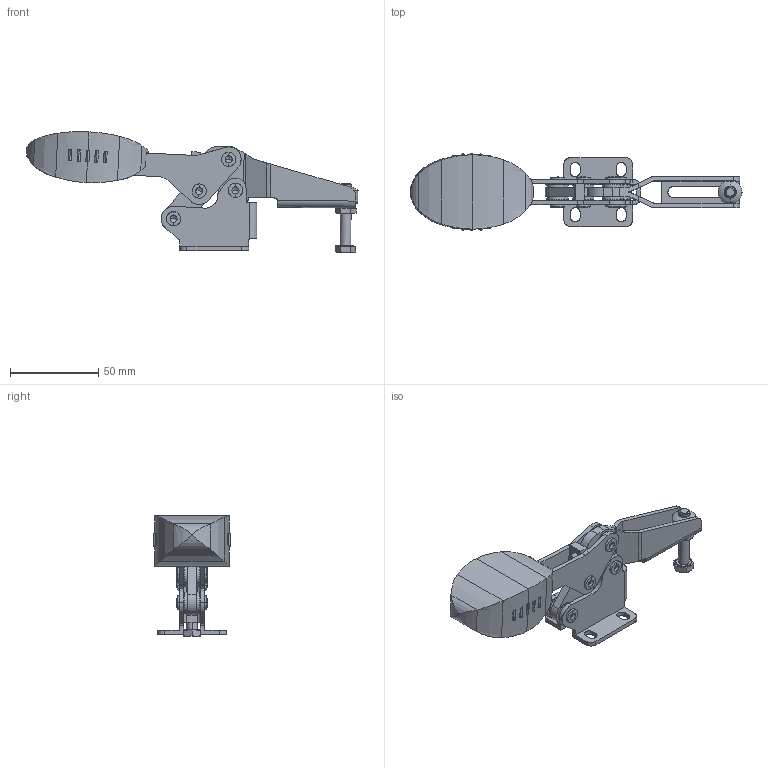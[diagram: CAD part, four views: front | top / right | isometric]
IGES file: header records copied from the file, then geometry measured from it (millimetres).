
Start section: SolidWorks IGES file using analytic representation for surfaces
Global section: file name: X:\11_SW2020-Inv2020\00_全2021-11新製品まで\t\TCDHF06160\tcdhf06160.IGS; native system: SolidWorks 2020; preprocessor: SolidWorks 2020; author: ImaoCorp; date: 211026.152719; units: millimetre
Bounding box: 187.68 x 43.44 x 68.27 mm (x, y, z)
Surface area: 39137.1 mm2 (no closed solid volume)
Topology: 0 solids, 0 shells, 456 faces, 5756 edges, 5744 vertices
Faces by surface type: revolution 298, bspline 158
